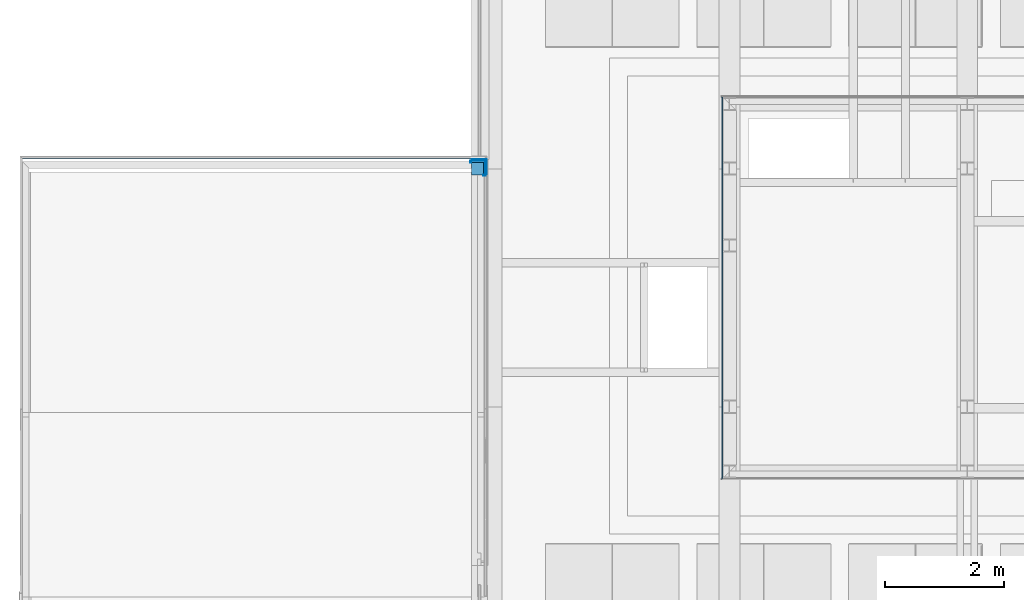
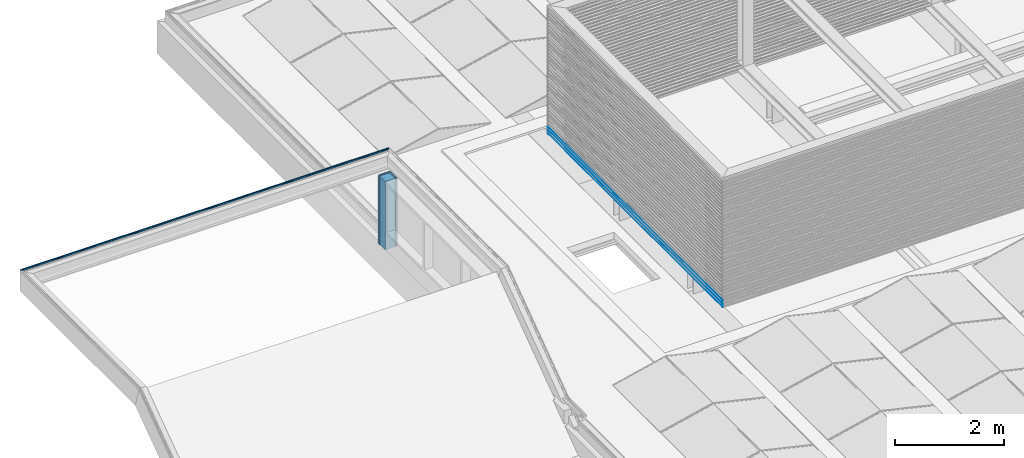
# One storey, part 22 of 63: 11 building element parts, 3 elements without a shape of their own.
"""IFC2X3 building model written with IfcOpenShell, lengths in millimetres."""

from ifc_helpers import new_model, entity, si_unit, converted_unit, derived_unit, money_unit, direction, frame, origin_with_axes, place, context, subcontext, project, spatial, faceted_brep, material, type_object, element, aggregate, save


model = new_model("IFC2X3")

# Units and contexts
model_context = context("Model", 3, precision=0.01, world=origin_with_axes(), true_north=direction((0.0, 1.0)))
body_context = subcontext(model_context, "Body", "Model", "MODEL_VIEW")
ifc_project = project(units=[si_unit("LENGTHUNIT", "METRE", prefix="MILLI"), si_unit("AREAUNIT", "SQUARE_METRE"), si_unit("VOLUMEUNIT", "CUBIC_METRE"), converted_unit("PLANEANGLEUNIT", "DEGREE", entity("IfcPlaneAngleMeasure", 0.0174532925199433), si_unit("PLANEANGLEUNIT", "RADIAN"), dimensions=[0, 0, 0, 0, 0, 0, 0]), money_unit("EUR"), converted_unit("TIMEUNIT", "Year", entity("IfcTimeMeasure", 31557600.0), si_unit("TIMEUNIT", "SECOND"), dimensions=[0, 0, 1, 0, 0, 0, 0]), si_unit("MASSUNIT", "GRAM", prefix="KILO"), si_unit("THERMODYNAMICTEMPERATUREUNIT", "DEGREE_CELSIUS"), si_unit("LUMINOUSINTENSITYUNIT", "LUMEN"), si_unit("ENERGYUNIT", "JOULE", prefix="MEGA"), derived_unit("THERMALCONDUCTANCEUNIT", [(si_unit("POWERUNIT", "WATT"), 1), (si_unit("LENGTHUNIT", "METRE"), -1), (si_unit("THERMODYNAMICTEMPERATUREUNIT", "KELVIN"), -1)]), derived_unit("SPECIFICHEATCAPACITYUNIT", [(si_unit("ENERGYUNIT", "JOULE"), 1), (si_unit("MASSUNIT", "GRAM", prefix="KILO"), -1), (si_unit("THERMODYNAMICTEMPERATUREUNIT", "KELVIN"), -1)]), derived_unit("MASSDENSITYUNIT", [(si_unit("MASSUNIT", "GRAM", prefix="KILO"), 1), (si_unit("VOLUMEUNIT", "CUBIC_METRE"), -1)])], contexts=[model_context])

# Site, building, storey
site_placement = place(None, origin_with_axes())
site = spatial("IfcSite", under=ifc_project, at=site_placement, Name="<site naam>", CompositionType="ELEMENT")
building_placement = place(site_placement, origin_with_axes())
building = spatial("IfcBuilding", under=site, at=building_placement, Name="<Naam gebouw>", CompositionType="ELEMENT")
storey_placement = place(building_placement, frame((0.0, 0.0, 12770.0), z_axis=(0.0, 0.0, 1.0), x_axis=(1.0, 0.0, 0.0)))
storey = spatial("IfcBuildingStorey", under=building, at=storey_placement, Name="04 4e verdieping", CompositionType="ELEMENT", Elevation=12770.0)

# Wall, building element parts
wall_type = type_object("IfcWallType", Name="Gevelbeplating golf 18 x 2900", PredefinedType="NOTDEFINED")
wall_placement = place(storey_placement, frame((15871.99992141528, 13218.00009009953, 299.9552842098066), z_axis=(0.0, 0.0, 1.0), x_axis=(0.0, -1.0, 0.0)))
wall = element("IfcWall", 1, at=wall_placement, inside=storey, type_object=wall_type, Name="47_Binnenwand_Gevelbeplating")
ifc_material_1 = material(Name="gevelafwerking type 3 - Aluminium RAL1036")
building_element_part_1_placement = place(wall_placement, origin_with_axes())
building_element_part_1 = element("IfcBuildingElementPart", 2, at=building_element_part_1_placement, material=ifc_material_1, Name="gevelafwerking type 3 - Aluminium RAL1036", context=body_context, shape_type="Brep", body=[
    faceted_brep([(17.99999761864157, 16.99999523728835, 76.00000000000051), (17.99999761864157, 17.99999761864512, 76.00000000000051), (6418.000171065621, 17.99999761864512, 76.00000000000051), (6418.000171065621, 16.99999523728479, 76.00000000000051), (15.62926049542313, 15.62926049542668, 86.68448868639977), (15.70000177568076, 14.77519471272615, 86.36567037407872), (15.62926049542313, 14.54421964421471, 86.68448868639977), (6420.370908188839, 15.62926049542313, 86.68448868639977), (6420.370908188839, 14.54421964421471, 86.68448868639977), (6420.300166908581, 14.77519471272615, 86.36567037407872), (6426.602033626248, 8.555250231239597, 94.9510943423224), (9.398135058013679, 8.555250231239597, 94.9510943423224), (9.041581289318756, 9.041581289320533, 95.4241211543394), (9.041581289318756, 8.209531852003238, 95.4241211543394), (6426.958587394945, 9.041581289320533, 95.4241211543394), (6426.958587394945, 8.209531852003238, 95.4241211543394), (6432.660032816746, 2.257356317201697, 103.5681937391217), (3.340135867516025, 2.257356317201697, 103.5681937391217), (3.116476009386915, 3.116476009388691, 103.8876744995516), (3.116476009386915, 2.188225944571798, 103.8876744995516), (6432.883692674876, 3.116476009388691, 103.8876744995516), (6432.883692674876, 2.188225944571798, 103.8876744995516), (6435.000171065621, -2.381355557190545e-06, 114.0000000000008), (0.9999976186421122, -2.381362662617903e-06, 114.0000000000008), (0.9999976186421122, 0.9999976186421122, 114.0000000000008), (6435.000171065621, 0.9999976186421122, 114.0000000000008)], [[[0, 1, 2, 3]], [[4, 1, 0, 5, 6]], [[1, 4, 7, 2]], [[3, 2, 7, 8, 9]], [[5, 0, 3, 9]], [[6, 5, 9, 8, 10, 11]], [[12, 4, 6, 11, 13]], [[4, 12, 14, 7]], [[7, 14, 15, 10, 8]], [[13, 11, 10, 15, 16, 17]], [[18, 12, 13, 17, 19]], [[12, 18, 20, 14]], [[14, 20, 21, 16, 15]], [[19, 17, 16, 21, 22, 23]], [[24, 18, 19, 23]], [[18, 24, 25, 20]], [[20, 25, 22, 21]], [[24, 23, 22, 25]]]),
])
building_element_part_2_placement = place(wall_placement, origin_with_axes())
building_element_part_2 = element("IfcBuildingElementPart", 3, at=building_element_part_2_placement, material=ifc_material_1, Name="gevelafwerking type 3 - Aluminium RAL1036", context=body_context, shape_type="Brep", body=[
    faceted_brep([(17.99999999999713, 16.9999976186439, 0.0), (17.99999999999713, 18.00000000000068, 0.0), (6418.000168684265, 18.00000000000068, 0.0), (6418.000168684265, 16.9999976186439, 0.0), (15.62926287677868, 15.62926287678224, 10.68448868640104), (15.70000052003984, 14.7751970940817, 10.36568676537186), (15.62926287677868, 14.54423390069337, 10.68448868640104), (6420.370905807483, 15.62926287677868, 10.68448868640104), (6420.370905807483, 14.54423390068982, 10.68448868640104), (6420.300168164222, 14.7751970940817, 10.36568676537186), (6426.602043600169, 8.555252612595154, 18.95111073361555), (9.398125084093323, 8.555252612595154, 18.95111073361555), (9.041583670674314, 9.041583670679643, 19.42412115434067), (9.041583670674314, 8.20954621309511, 19.42412115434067), (6426.958585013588, 9.041583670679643, 19.42412115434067), (6426.958585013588, 8.20954621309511, 19.42412115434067), (6432.660041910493, 2.257358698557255, 27.56821013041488), (3.340126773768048, 2.257358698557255, 27.56821013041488), (3.116478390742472, 3.116478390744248, 27.8876744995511), (3.116478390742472, 2.188231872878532, 27.8876744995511), (6432.88369029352, 3.116478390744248, 27.8876744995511), (6432.88369029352, 2.188231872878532, 27.8876744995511), (6435.000168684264, 0.0, 38.00000000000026), (0.9999999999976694, 0.0, 38.00000000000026), (0.9999999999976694, 0.9999999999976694, 38.00000000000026), (6435.000168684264, 0.9999999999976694, 38.00000000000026)], [[[0, 1, 2, 3]], [[4, 1, 0, 5, 6]], [[1, 4, 7, 2]], [[3, 2, 7, 8, 9]], [[5, 0, 3, 9]], [[6, 5, 9, 8, 10, 11]], [[12, 4, 6, 11, 13]], [[4, 12, 14, 7]], [[7, 14, 15, 10, 8]], [[13, 11, 10, 15, 16, 17]], [[18, 12, 13, 17, 19]], [[12, 18, 20, 14]], [[14, 20, 21, 16, 15]], [[19, 17, 16, 21, 22, 23]], [[24, 18, 19, 23]], [[18, 24, 25, 20]], [[20, 25, 22, 21]], [[24, 23, 22, 25]]]),
])
building_element_part_3_placement = place(wall_placement, origin_with_axes())
building_element_part_3 = element("IfcBuildingElementPart", 4, at=building_element_part_3_placement, material=ifc_material_1, Name="gevelafwerking type 3 - Aluminium RAL1036", context=body_context, shape_type="Brep", body=[
    faceted_brep([(17.99999523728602, 16.99999285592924, 151.9999999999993), (17.99999523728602, 17.99999523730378, 151.9999999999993), (6418.000173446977, 17.99999523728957, 151.9999999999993), (6418.000173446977, 16.99999285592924, 151.9999999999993), (15.62925811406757, 15.62925811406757, 162.6844886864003), (15.69999344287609, 14.77519233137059, 162.3656971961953), (15.62925811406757, 14.54423669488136, 162.6844886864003), (6420.370910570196, 15.62925811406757, 162.6844886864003), (6420.300175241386, 14.77519233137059, 162.3656971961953), (6420.370910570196, 14.54423669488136, 162.6844886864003), (6426.602056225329, 8.55524784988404, 170.9511211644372), (9.398112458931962, 8.55524784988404, 170.9511211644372), (9.041578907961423, 9.041578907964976, 171.4241211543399), (9.041578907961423, 8.20954907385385, 171.4241211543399), (6426.9585897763, 9.041578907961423, 171.4241211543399), (6426.9585897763, 8.209549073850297, 171.4241211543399), (6432.660053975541, 2.25735393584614, 179.5682205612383), (3.340114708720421, 2.25735393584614, 179.5682205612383), (3.116473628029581, 3.116473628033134, 179.8876744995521), (3.116473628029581, 2.188220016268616, 179.8876744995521), (6432.883695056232, 3.116473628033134, 179.8876744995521), (6432.883695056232, 2.188220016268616, 179.8876744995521), (6435.000173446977, -4.762711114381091e-06, 189.9999999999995), (0.9999952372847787, -4.762711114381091e-06, 189.9999999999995), (0.9999952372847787, 0.999995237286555, 189.9999999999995), (6435.000173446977, 0.999995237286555, 189.9999999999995)], [[[0, 1, 2, 3]], [[4, 1, 0, 5, 6]], [[1, 4, 7, 2]], [[8, 3, 2, 7, 9]], [[5, 0, 3, 8]], [[6, 5, 8, 9, 10, 11]], [[12, 4, 6, 11, 13]], [[4, 12, 14, 7]], [[9, 7, 14, 15, 10]], [[13, 11, 10, 15, 16, 17]], [[18, 12, 13, 17, 19]], [[12, 18, 20, 14]], [[15, 14, 20, 21, 16]], [[19, 17, 16, 21, 22, 23]], [[24, 18, 19, 23]], [[18, 24, 25, 20]], [[21, 20, 25, 22]], [[24, 23, 22, 25]]]),
])
aggregate(wall, [building_element_part_1, building_element_part_2, building_element_part_3])

# Beam, building element part
beam_type = type_object("IfcBeamType", Name="Aluminium daktrim (hoofdtrap) 45 x 485", PredefinedType="BEAM")
beam_placement = place(storey_placement, frame((12028.41571728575, 12322.86545989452, 1715.97308244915), z_axis=(0.0, 0.0, 1.0), x_axis=(2.040052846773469e-06, 0.9999999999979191, 0.0)))
beam = element("IfcBeam", 5, at=beam_placement, inside=storey, type_object=beam_type, Name="47_Balk_Aluminium", ObjectType="BEAM")
ifc_material_2 = material(Name="aluminium")
building_element_part_4_placement = place(beam_placement, origin_with_axes())
building_element_part_4 = element("IfcBuildingElementPart", 6, at=building_element_part_4_placement, material=ifc_material_2, Name="aluminium", context=body_context, shape_type="Brep", body=[
    faceted_brep([(-121.4991945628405, 7945.422854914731, 294.0656451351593), (-122.2068758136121, 7944.715172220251, 293.7721760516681), (-122.2068758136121, 122.2066915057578, 293.7721760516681), (-121.4991945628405, 121.4990113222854, 294.0656451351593), (-110.9991946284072, 7955.922876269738, 294.0656451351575), (-110.2920878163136, 7956.629984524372, 293.7727519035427), (-109.999194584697, 7956.922878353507, 293.0656450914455), (-109.999194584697, 7956.922878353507, 250.0656451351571), (-110.2920878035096, 7956.629984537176, 249.3585383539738), (-110.9991945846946, 7955.922876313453, 249.0656451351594), (-111.4991731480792, 7955.422896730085, 249.1996073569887), (-117.6977781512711, 7949.224279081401, 252.7781690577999), (-117.9774779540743, 7948.944578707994, 253.1426342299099), (-117.9175736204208, 7949.004483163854, 253.598132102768), (-117.5531500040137, 7949.368907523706, 253.8778860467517), (-117.0976432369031, 7949.824415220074, 253.8180493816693), (-113.8976320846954, 7953.024432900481, 251.9718951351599), (-113.8976320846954, 7953.024432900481, 252.565645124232), (-113.7511854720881, 7953.170879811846, 252.9191985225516), (-113.397632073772, 7953.524433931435, 253.0656451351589), (-113.1984133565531, 7953.723653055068, 253.0656451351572), (-112.8448599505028, 7954.077207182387, 252.9191985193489), (-112.6984133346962, 7954.223654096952, 252.5656451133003), (-112.6984133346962, 7954.223654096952, 251.278535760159), (-111.9489165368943, 7954.973152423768, 250.8452329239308), (-111.6116899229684, 7955.310379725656, 250.7856033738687), (-111.3150643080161, 7955.607005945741, 250.9567486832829), (-111.1979101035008, 7955.724160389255, 251.278544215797), (-111.1984133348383, 7955.723657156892, 281.0656535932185), (-111.3448629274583, 7955.577207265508, 281.419201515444), (-111.6984133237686, 7955.223656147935, 281.5656451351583), (-112.1984133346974, 7954.723655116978, 281.5656451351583), (-112.5519667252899, 7954.370101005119, 281.4191985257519), (-112.6984133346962, 7954.223654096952, 281.0656451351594), (-112.6984133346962, 7954.223654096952, 279.5656451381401), (-112.8448599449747, 7954.077207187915, 279.212091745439), (-113.1984133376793, 7953.723653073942, 279.065645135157), (-114.9718508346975, 7951.950211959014, 279.0656451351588), (-120.1773366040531, 7946.744715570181, 275.7461395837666), (-120.3116945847, 7946.610357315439, 275.4250201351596), (-120.5695070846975, 7946.352544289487, 275.3156451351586), (-120.8898195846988, 7946.032231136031, 275.4484576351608), (-121.5401955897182, 7945.381853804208, 275.2060759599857), (-121.6945070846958, 7945.227541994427, 274.8976763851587), (-121.9640383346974, 7944.958010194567, 274.8078326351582), (-122.2726320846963, 7944.649415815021, 274.964082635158), (-128.1981216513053, 7938.723914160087, 274.066030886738), (-154.6486035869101, 7912.273378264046, 274.0656451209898), (-154.8951277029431, 7912.026853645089, 274.1677553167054), (-154.9972414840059, 7911.924739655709, 274.4142779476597), (-154.8947842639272, 7912.027197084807, 274.6611444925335), (-154.6476320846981, 7912.274349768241, 274.7629107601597), (-149.9991945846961, 7916.922796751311, 275.2648638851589), (-149.6984133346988, 7917.223578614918, 275.5656451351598), (-147.2999758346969, 7919.622021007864, 275.5656451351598), (-146.999194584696, 7919.922802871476, 275.2648638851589), (-143.9991945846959, 7922.922808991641, 275.2648638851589), (-143.6984133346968, 7923.223590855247, 275.5656451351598), (-141.2999758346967, 7925.622033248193, 275.5656451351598), (-140.9991945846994, 7925.922815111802, 275.2648638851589), (-137.9991945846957, 7928.922821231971, 275.2648638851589), (-137.6984133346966, 7929.223603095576, 275.5656451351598), (-135.2999758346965, 7931.622045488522, 275.5656451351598), (-134.9991945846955, 7931.922827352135, 275.2648638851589), (-131.9991945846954, 7934.922833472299, 275.2648638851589), (-131.6984133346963, 7935.223615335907, 275.5656451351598), (-129.2999758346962, 7937.622057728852, 275.5656451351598), (-128.9991945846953, 7937.922839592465, 275.2648638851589), (-128.1984107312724, 7938.723625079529, 275.2648638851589), (-120.0158638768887, 7946.906188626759, 277.1388822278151), (-113.4645529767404, 7953.457512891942, 282.3873432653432), (-112.6841977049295, 7954.23786975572, 282.7641787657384), (-112.19700300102, 7954.725065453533, 282.7648658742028), (-111.4908083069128, 7955.431261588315, 283.0582564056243), (-111.1984133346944, 7955.723657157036, 283.7648638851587), (-111.1984133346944, 7955.723657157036, 292.3664263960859), (-111.3448599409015, 7955.57721025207, 292.719979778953), (-111.6984133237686, 7955.223656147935, 292.8664263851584), (-120.7999758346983, 7946.122075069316, 292.8664263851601), (-121.1535292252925, 7945.768520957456, 292.7199797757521), (-121.2999758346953, 7945.622074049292, 292.3664263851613), (-121.2999758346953, 7945.622074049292, 290.6652544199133), (-121.4748532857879, 7945.447196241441, 290.2428198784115), (-121.897145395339, 7945.024903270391, 290.0675987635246), (-122.3197220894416, 7944.602325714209, 290.2421324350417), (-122.4952867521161, 7944.426760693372, 290.6642818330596), (-122.499191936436, 7944.422855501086, 293.0640177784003), (-122.4991919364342, 122.4990071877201, 293.0640177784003), (-122.4952867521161, 122.4951020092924, 290.6642818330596), (-122.3197220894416, 122.3195376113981, 290.2421324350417), (-121.8971453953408, 121.8969615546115, 290.0675987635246), (-121.4748532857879, 121.4746700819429, 290.2428198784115), (-121.2999758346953, 121.2997928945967, 290.6652544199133), (-121.2999758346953, 121.2997928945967, 292.3664263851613), (-121.1535292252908, 121.1533465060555, 292.7199797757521), (-120.7999758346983, 120.7997936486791, 292.8664263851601), (-111.6984133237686, 111.6982448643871, 292.8664263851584), (-111.3448599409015, 111.3446920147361, 292.719979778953), (-111.1984133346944, 111.1982456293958, 292.3664263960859), (-111.1984133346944, 111.1982456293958, 283.7648638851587), (-111.4908083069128, 111.4906401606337, 283.0582564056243), (-112.19700300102, 112.1968337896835, 282.7648658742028), (-112.6841977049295, 112.6840277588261, 282.7641787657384), (-113.4645529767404, 113.4643818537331, 282.3873432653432), (-120.0158638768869, 120.0156828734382, 277.1388822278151), (-128.1984107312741, 128.1982173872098, 275.2648638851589), (-128.9991945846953, 128.9990000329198, 275.2648638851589), (-129.2999758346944, 129.2997808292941, 275.5656451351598), (-131.6984133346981, 131.6982147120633, 275.5656451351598), (-131.9991945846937, 131.9989955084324, 275.2648638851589), (-134.9991945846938, 134.9989909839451, 275.2648638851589), (-135.2999758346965, 135.2997717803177, 275.5656451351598), (-137.6984133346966, 137.6982056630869, 275.5656451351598), (-137.9991945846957, 137.9989864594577, 275.2648638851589), (-140.9991945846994, 140.9989819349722, 275.2648638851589), (-141.2999758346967, 141.299762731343, 275.5656451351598), (-143.6984133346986, 143.6981966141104, 275.5656451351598), (-143.9991945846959, 143.9989774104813, 275.2648638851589), (-146.9991945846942, 146.9989728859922, 275.2648638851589), (-147.2999758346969, 147.2997536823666, 275.5656451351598), (-149.6984133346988, 149.698187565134, 275.5656451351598), (-149.9991945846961, 149.9989683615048, 275.2648638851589), (-154.6476320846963, 154.6473988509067, 274.7629107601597), (-154.8947842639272, 154.8945506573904, 274.6611444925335), (-154.9972414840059, 154.9970077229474, 274.4142779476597), (-154.8951277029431, 154.8948940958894, 274.1677553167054), (-154.6486035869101, 154.6483703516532, 274.0656451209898), (-128.1981216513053, 128.1979283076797, 274.066030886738), (-122.2726320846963, 122.2724476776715, 274.964082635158), (-121.9640383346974, 121.9638543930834, 274.8078326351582), (-121.6945070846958, 121.694323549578, 274.8976763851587), (-121.5401955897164, 121.5400122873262, 275.2060759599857), (-120.8898195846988, 120.8896372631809, 275.4484576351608), (-120.5695070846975, 120.5693252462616, 275.3156451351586), (-120.3116945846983, 120.3115131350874, 275.4250201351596), (-120.1773366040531, 120.1771553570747, 275.7461395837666), (-114.9718508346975, 114.9716774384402, 279.0656451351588), (-113.1984133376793, 113.198242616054, 279.065645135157), (-112.8448599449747, 112.8446897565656, 279.212091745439), (-112.6984133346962, 112.6982433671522, 279.5656451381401), (-112.6984133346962, 112.6982433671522, 281.0656451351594), (-112.5519667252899, 112.551796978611, 281.4191985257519), (-112.1984133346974, 112.1982441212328, 281.5656451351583), (-111.6984133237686, 111.6982448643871, 281.5656451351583), (-111.3448629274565, 111.3446950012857, 281.419201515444), (-111.1984133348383, 111.198245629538, 281.0656535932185), (-111.1979101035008, 111.1977423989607, 251.278544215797), (-111.3150643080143, 111.3148964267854, 250.9567486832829), (-111.6116899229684, 111.61152159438, 250.7856033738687), (-111.9489165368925, 111.9487476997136, 250.8452329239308), (-112.6984133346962, 112.6982433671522, 251.278535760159), (-112.6984133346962, 112.6982433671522, 252.5656451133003), (-112.8448599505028, 112.8446897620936, 252.9191985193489), (-113.1984133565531, 113.1982426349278, 253.0656451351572), (-113.3976320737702, 113.3974610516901, 253.0656451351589), (-113.7511854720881, 113.7510139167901, 252.9191985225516), (-113.8976320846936, 113.8974603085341, 252.565645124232), (-113.8976320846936, 113.8974603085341, 251.9718951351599), (-117.0976432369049, 117.0974666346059, 253.8180493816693), (-117.5531500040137, 117.5529727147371, 253.8778860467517), (-117.917573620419, 117.9173957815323, 253.598132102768), (-117.9774779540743, 117.9773000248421, 253.1426342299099), (-117.6977781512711, 117.6976006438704, 252.7781690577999), (-111.4991731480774, 111.4990049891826, 249.1996073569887), (-110.9991945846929, 110.9990271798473, 249.0656451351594), (-110.2920878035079, 110.2919214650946, 249.3585383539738), (-109.999194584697, 109.9990286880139, 250.0656451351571), (-109.999194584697, 109.9990286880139, 293.0656450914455), (-110.2920878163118, 110.2919214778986, 293.7727519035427), (-110.9991946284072, 110.9990272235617, 294.0656451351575)], [[[0, 1, 2, 3]], [[0, 4, 5, 6, 7, 8, 9, 10, 11, 12, 13, 14, 15, 16, 17, 18, 19, 20, 21, 22, 23, 24, 25, 26, 27, 28, 29, 30, 31, 32, 33, 34, 35, 36, 37, 38, 39, 40, 41, 42, 43, 44, 45, 46, 47, 48, 49, 50, 51, 52, 53, 54, 55, 56, 57, 58, 59, 60, 61, 62, 63, 64, 65, 66, 67, 68, 69, 70, 71, 72, 73, 74, 75, 76, 77, 78, 79, 80, 81, 82, 83, 84, 85, 86, 1]], [[1, 86, 87, 2]], [[3, 2, 87, 88, 89, 90, 91, 92, 93, 94, 95, 96, 97, 98, 99, 100, 101, 102, 103, 104, 105, 106, 107, 108, 109, 110, 111, 112, 113, 114, 115, 116, 117, 118, 119, 120, 121, 122, 123, 124, 125, 126, 127, 128, 129, 130, 131, 132, 133, 134, 135, 136, 137, 138, 139, 140, 141, 142, 143, 144, 145, 146, 147, 148, 149, 150, 151, 152, 153, 154, 155, 156, 157, 158, 159, 160, 161, 162, 163, 164, 165, 166, 167, 168, 169]], [[4, 0, 3, 169]], [[5, 4, 169, 168]], [[6, 5, 168, 167]], [[7, 6, 167, 166]], [[8, 7, 166, 165]], [[9, 8, 165, 164]], [[10, 9, 164, 163]], [[11, 10, 163, 162]], [[12, 11, 162, 161]], [[13, 12, 161, 160]], [[14, 13, 160, 159]], [[15, 14, 159, 158]], [[16, 15, 158, 157]], [[17, 16, 157, 156]], [[18, 17, 156, 155]], [[19, 18, 155, 154]], [[20, 19, 154, 153]], [[21, 20, 153, 152]], [[22, 21, 152, 151]], [[23, 22, 151, 150]], [[24, 23, 150, 149]], [[25, 24, 149, 148]], [[26, 25, 148, 147]], [[27, 26, 147, 146]], [[28, 27, 146, 145]], [[29, 28, 145, 144]], [[30, 29, 144, 143]], [[31, 30, 143, 142]], [[32, 31, 142, 141]], [[33, 32, 141, 140]], [[34, 33, 140, 139]], [[35, 34, 139, 138]], [[36, 35, 138, 137]], [[37, 36, 137, 136]], [[38, 37, 136, 135]], [[39, 38, 135, 134]], [[40, 39, 134, 133]], [[41, 40, 133, 132]], [[42, 41, 132, 131]], [[43, 42, 131, 130]], [[44, 43, 130, 129]], [[45, 44, 129, 128]], [[46, 45, 128, 127]], [[47, 46, 127, 126]], [[48, 47, 126, 125]], [[49, 48, 125, 124]], [[50, 49, 124, 123]], [[51, 50, 123, 122]], [[52, 51, 122, 121]], [[53, 52, 121, 120]], [[54, 53, 120, 119]], [[55, 54, 119, 118]], [[56, 55, 118, 117]], [[57, 56, 117, 116]], [[58, 57, 116, 115]], [[59, 58, 115, 114]], [[60, 59, 114, 113]], [[61, 60, 113, 112]], [[62, 61, 112, 111]], [[63, 62, 111, 110]], [[64, 63, 110, 109]], [[65, 64, 109, 108]], [[66, 65, 108, 107]], [[67, 66, 107, 106]], [[68, 67, 106, 105]], [[69, 68, 105, 104]], [[70, 69, 104, 103]], [[71, 70, 103, 102]], [[72, 71, 102, 101]], [[73, 72, 101, 100]], [[74, 73, 100, 99]], [[75, 74, 99, 98]], [[76, 75, 98, 97]], [[77, 76, 97, 96]], [[78, 77, 96, 95]], [[79, 78, 95, 94]], [[80, 79, 94, 93]], [[81, 80, 93, 92]], [[82, 81, 92, 91]], [[83, 82, 91, 90]], [[84, 83, 90, 89]], [[85, 84, 89, 88]], [[86, 85, 88, 87]]]),
])
aggregate(beam, [building_element_part_4])

# Column, building element parts
column_type = type_object("IfcColumnType", Name="aluminium zetwerk hoek vliesgevel 272 x 272", PredefinedType="COLUMN")
column_placement = place(storey_placement, frame((11918.50820305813, 12159.98270142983, -19.99999999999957), z_axis=(0.0, 0.0, 1.0), x_axis=(-1.0, 0.0, 0.0)))
column = element("IfcColumn", 7, at=column_placement, inside=storey, type_object=column_type, Name="41_Kolom_aluminium", ObjectType="COLUMN")
ifc_material_3 = material(Name="ALG - ISOLATIE met lijn")
building_element_part_5_placement = place(column_placement, origin_with_axes())
building_element_part_5 = element("IfcBuildingElementPart", 8, at=building_element_part_5_placement, material=ifc_material_3, Name="ALG - ISOLATIE met lijn", context=body_context, shape_type="Brep", body=[
    faceted_brep([(22.49999655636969, 52.50000131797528, 259.9999999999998), (22.49999655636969, 22.50000092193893, 259.9999999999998), (22.49999655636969, 22.50000092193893, 1534.99821910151), (22.49999655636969, 52.50000131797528, 1534.99821910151), (93.54835639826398, 22.50000092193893, 259.9999999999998), (51.99999973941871, 52.50000131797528, 259.9999999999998), (51.99999973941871, 50.95092030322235, 259.9999999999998), (93.54835639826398, 50.95092030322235, 259.9999999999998), (93.54835639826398, 22.50000092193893, 5.60511637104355e-07), (94.50204166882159, 22.50000092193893, 5.680362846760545e-07), (94.50204166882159, 22.50000092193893, 360.0000012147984), (253.5020416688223, 22.50000092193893, 360.0000012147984), (253.5020416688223, 22.50000092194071, 5.680362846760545e-07), (272.468059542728, 22.50000092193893, 0.0), (272.468059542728, 22.50000092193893, 1534.99821910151), (51.99999973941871, 50.95092030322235, 1534.99821910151), (51.99999973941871, 52.50000131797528, 1534.99821910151), (272.468059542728, 52.50000131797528, 1534.99821910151), (258.5224156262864, 52.50000131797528, 1534.99821910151), (258.5224156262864, 50.95092030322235, 1534.99821910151), (258.5224156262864, 50.95092030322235, 0.0), (253.5020416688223, 50.95092030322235, 5.680362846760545e-07), (253.5020416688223, 50.95092030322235, 360.0000012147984), (94.50204166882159, 50.95092030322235, 360.0000012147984), (94.50204166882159, 50.95092030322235, 5.680362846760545e-07), (93.54835639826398, 50.95092030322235, 5.552909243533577e-07), (258.5224156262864, 52.50000131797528, 0.0), (272.468059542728, 52.50000131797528, 0.0)], [[[0, 1, 2, 3]], [[4, 1, 0, 5, 6, 7]], [[4, 8, 9, 10, 11, 12, 13, 14, 2, 1]], [[15, 16, 3, 2, 14, 17, 18, 19]], [[5, 0, 3, 16]], [[6, 5, 16, 15]], [[7, 6, 15, 19, 20, 21, 22, 23, 24, 25]], [[8, 4, 7, 25]], [[8, 25, 24, 9]], [[10, 9, 24, 23]], [[11, 10, 23, 22]], [[12, 11, 22, 21]], [[12, 21, 20, 26, 27, 13]], [[14, 13, 27, 17]], [[17, 27, 26, 18]], [[18, 26, 20, 19]]]),
])
ifc_material_4 = material(Name="Rubber")
building_element_part_6_placement = place(column_placement, origin_with_axes())
building_element_part_6 = element("IfcBuildingElementPart", 9, at=building_element_part_6_placement, material=ifc_material_4, Name="Rubber", context=body_context, shape_type="Brep", body=[
    faceted_brep([(20.49999289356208, 20.50000101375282, 0.0), (252.4756312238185, 20.50000101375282, 0.0), (252.4756312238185, 20.50000101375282, 1534.99821910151), (20.49999289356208, 20.50000101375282, 1534.99821910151), (20.49999289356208, 253.0030740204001, 0.0), (20.49999289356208, 272.4680595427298, 0.0), (22.49999536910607, 272.4680595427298, 0.0), (22.49999536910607, 22.49999942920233, 0.0), (272.468059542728, 22.49999942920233, 0.0), (272.468059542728, 20.50000101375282, 0.0), (272.468059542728, 20.50000101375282, 1534.99821910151), (272.468059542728, 22.49999942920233, 1534.99821910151), (22.49999536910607, 22.49999942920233, 1534.99821910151), (22.49999536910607, 272.4680595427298, 1534.99821910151), (20.49999289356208, 272.4680595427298, 1534.99821910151), (20.49999289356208, 253.0030740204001, 1534.99821910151)], [[[0, 1, 2, 3]], [[0, 4, 5, 6, 7, 8, 9, 1]], [[1, 9, 10, 2]], [[3, 2, 10, 11, 12, 13, 14, 15]], [[4, 0, 3, 15]], [[5, 4, 15, 14]], [[6, 5, 14, 13]], [[7, 6, 13, 12]], [[8, 7, 12, 11]], [[9, 8, 11, 10]]]),
])
building_element_part_7_placement = place(column_placement, origin_with_axes())
building_element_part_7 = element("IfcBuildingElementPart", 10, at=building_element_part_7_placement, material=ifc_material_3, Name="ALG - ISOLATIE met lijn", context=body_context, shape_type="Brep", body=[
    faceted_brep([(22.49999655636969, 272.4680601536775, 259.9999999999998), (22.49999655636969, 52.49999954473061, 259.9999999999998), (22.49999655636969, 52.49999954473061, 1534.99821910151), (22.49999655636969, 272.4680601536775, 1534.99821910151), (51.99999989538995, 52.49999954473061, 259.9999999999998), (52.50000268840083, 272.4680601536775, 259.9999999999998), (52.50000268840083, 259.0029515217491, 259.9999999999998), (51.99999989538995, 259.0029515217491, 259.9999999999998), (51.99999989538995, 52.49999954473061, 1534.99821910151), (52.50000268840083, 272.4680601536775, 1534.99821910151), (51.99999989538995, 259.0029515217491, 1534.99821910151), (52.50000268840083, 259.0029515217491, 1534.99821910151)], [[[0, 1, 2, 3]], [[4, 1, 0, 5, 6, 7]], [[1, 4, 8, 2]], [[9, 3, 2, 8, 10, 11]], [[5, 0, 3, 9]], [[6, 5, 9, 11]], [[7, 6, 11, 10]], [[4, 7, 10, 8]]]),
])
building_element_part_8_placement = place(column_placement, origin_with_axes())
building_element_part_8 = element("IfcBuildingElementPart", 11, at=building_element_part_8_placement, material=ifc_material_4, Name="Rubber", context=body_context, shape_type="Brep", body=[
    faceted_brep([(52.50000194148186, 272.4680595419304, 0.0), (52.50000194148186, 259.0029500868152, 0.0), (52.50000194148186, 259.0029500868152, 1534.99821910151), (52.50000194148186, 272.4680595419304, 1534.99821910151), (54.50000310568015, 272.4680595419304, 0.0), (54.50000310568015, 259.0029500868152, 0.0), (54.50000310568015, 259.0029500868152, 1534.99821910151), (54.50000310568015, 272.4680595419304, 1534.99821910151)], [[[0, 1, 2, 3]], [[0, 4, 5, 1]], [[1, 5, 6, 2]], [[3, 2, 6, 7]], [[4, 0, 3, 7]], [[5, 4, 7, 6]]]),
    faceted_brep([(272.4680587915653, 54.49999725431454, 0.0), (258.5224159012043, 54.49999725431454, 0.0), (258.5224159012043, 54.49999725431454, 1534.99821910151), (272.4680587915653, 54.49999725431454, 1534.99821910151), (272.4680587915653, 52.50000269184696, 0.0), (258.5224159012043, 52.50000269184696, 0.0), (258.5224159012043, 52.50000269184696, 1534.99821910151), (272.4680587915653, 52.50000269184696, 1534.99821910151)], [[[0, 1, 2, 3]], [[0, 4, 5, 1]], [[1, 5, 6, 2]], [[3, 2, 6, 7]], [[4, 0, 3, 7]], [[5, 4, 7, 6]]]),
])
building_element_part_9_placement = place(column_placement, origin_with_axes())
building_element_part_9 = element("IfcBuildingElementPart", 12, at=building_element_part_9_placement, material=ifc_material_1, Name="gevelafwerking type 3 - Aluminium RAL1036", context=body_context, shape_type="Brep", body=[
    faceted_brep([(0.0, 0.0, 0.0), (253.4755065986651, 0.0, 0.0), (253.4755065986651, 0.0, 1534.99821910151), (0.0, 0.0, 1534.99821910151), (0.9530868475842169, 0.9530909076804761, 0.0), (1.000001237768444, 1.000005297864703, 0.0), (252.4756312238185, 1.000005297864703, 0.0), (252.4756312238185, 20.50000101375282, 0.0), (272.468059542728, 20.50000101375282, 0.0), (272.468059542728, 19.47333713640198, 0.0), (253.4755065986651, 19.47333713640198, 0.0), (253.4755065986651, 19.47333713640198, 1534.99821910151), (272.468059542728, 19.47333713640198, 1534.99821910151), (272.468059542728, 20.50000101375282, 1534.99821910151), (252.4756312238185, 20.50000101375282, 1534.99821910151), (252.4756312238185, 1.000005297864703, 1534.99821910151), (1.000001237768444, 1.000005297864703, 1534.99821910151), (0.9530868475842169, 0.9530909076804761, 1534.99821910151)], [[[0, 1, 2, 3]], [[0, 4, 5, 6, 7, 8, 9, 10, 1]], [[1, 10, 11, 2]], [[3, 2, 11, 12, 13, 14, 15, 16, 17]], [[4, 0, 3, 17]], [[5, 4, 17, 16]], [[6, 5, 16, 15]], [[7, 6, 15, 14]], [[8, 7, 14, 13]], [[9, 8, 13, 12]], [[10, 9, 12, 11]]]),
])
ifc_material_5 = material(Name="isolatie_kunststof_zacht")
building_element_part_10_placement = place(column_placement, origin_with_axes())
building_element_part_10 = element("IfcBuildingElementPart", 13, at=building_element_part_10_placement, material=ifc_material_5, Name="isolatie_kunststof_zacht", context=body_context, shape_type="Brep", body=[
    faceted_brep([(51.9999999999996, 259.0029513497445, 0.0), (51.9999999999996, 50.9509195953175, 0.0), (51.9999999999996, 50.9509195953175, 1534.99821910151), (51.9999999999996, 259.0029513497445, 1534.99821910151), (54.50000310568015, 259.0029500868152, 0.0), (258.5224163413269, 259.0029513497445, 0.0), (258.5224159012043, 54.49999725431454, 0.0), (258.5224163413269, 50.9509195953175, 0.0), (258.5224163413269, 50.9509195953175, 1534.99821910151), (258.5224159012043, 54.49999725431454, 1534.99821910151), (258.5224163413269, 259.0029513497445, 1534.99821910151), (54.50000310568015, 259.0029500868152, 1534.99821910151)], [[[0, 1, 2, 3]], [[0, 4, 5, 6, 7, 1]], [[1, 7, 8, 2]], [[3, 2, 8, 9, 10, 11]], [[4, 0, 3, 11]], [[5, 4, 11, 10]], [[6, 5, 10, 9]], [[7, 6, 9, 8]]]),
])
building_element_part_11_placement = place(column_placement, origin_with_axes())
building_element_part_11 = element("IfcBuildingElementPart", 14, at=building_element_part_11_placement, material=ifc_material_1, Name="gevelafwerking type 3 - Aluminium RAL1036", context=body_context, shape_type="Brep", body=[
    faceted_brep([(19.52642707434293, 254.0029513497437, 0.0), (0.0, 254.0029513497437, 0.0), (0.0, 254.0029513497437, 1534.99821910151), (19.52642707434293, 254.0029513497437, 1534.99821910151), (19.52642707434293, 272.4680588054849, 0.0), (20.49999265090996, 272.4680588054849, 0.0), (20.49999265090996, 253.0030740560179, 0.0), (0.9530945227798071, 253.0030740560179, 0.0), (0.9530888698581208, 0.953092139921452, 0.0), (0.0, 0.0, 0.0), (0.0, 0.0, 1534.99821910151), (0.9530888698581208, 0.953092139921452, 1534.99821910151), (0.9530945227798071, 253.0030740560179, 1534.99821910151), (20.49999265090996, 253.0030740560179, 1534.99821910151), (20.49999265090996, 272.4680588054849, 1534.99821910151), (19.52642707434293, 272.4680588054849, 1534.99821910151)], [[[0, 1, 2, 3]], [[0, 4, 5, 6, 7, 8, 9, 1]], [[1, 9, 10, 2]], [[3, 2, 10, 11, 12, 13, 14, 15]], [[4, 0, 3, 15]], [[5, 4, 15, 14]], [[6, 5, 14, 13]], [[7, 6, 13, 12]], [[8, 7, 12, 11]], [[9, 8, 11, 10]]]),
])
aggregate(column, [building_element_part_5, building_element_part_6, building_element_part_7, building_element_part_8, building_element_part_9, building_element_part_10, building_element_part_11])

save(model, "model.ifc")
